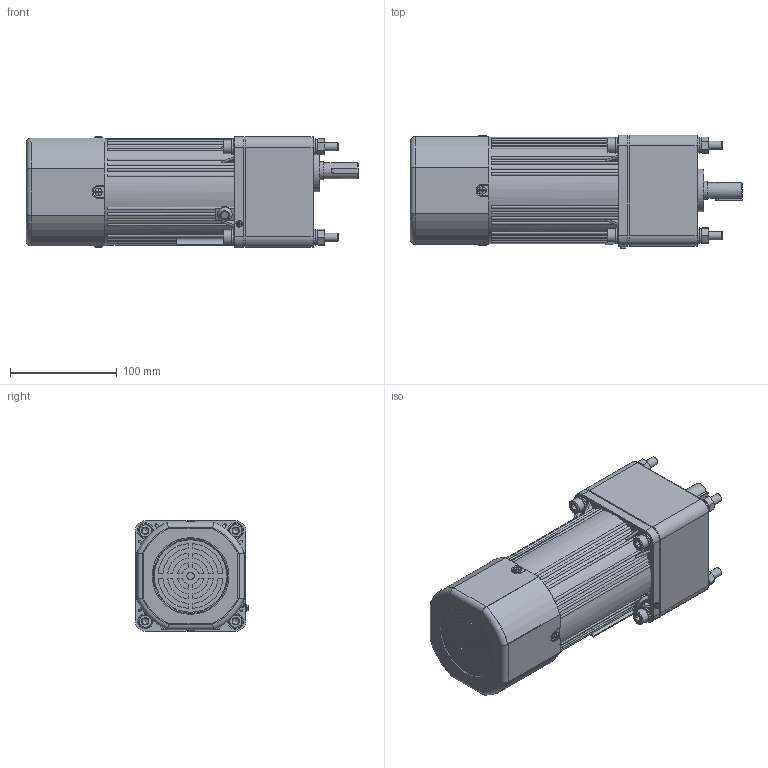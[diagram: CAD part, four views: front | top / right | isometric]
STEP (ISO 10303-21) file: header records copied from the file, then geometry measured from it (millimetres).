
FILE_DESCRIPTION(/* description */ (''),/* implementation_level */ '2;1');
FILE_NAME(/* name */ '6RK160-200CC·MRF#6GU3-750K-C·15T.stp',/* time_stamp */ '2024-05-29T16:45:11+08:00',/* author */ (''),/* organization */ (''),/* preprocessor_version */ 'ST-DEVELOPER v18.102',/* originating_system */ 'SIEMENS PLM Software NX 2027',/* authorisation */ '');
FILE_SCHEMA (('AP203_CONFIGURATION_CONTROLLED_3D_DESIGN_OF_MECHANICAL_PARTS_AND_ASSEMBLIES_MIM_LF { 1 0 10303 403 2 1 2}'));
Products named in the file (1): A0_objects
Bounding box: 311.5 x 106.83 x 104.06 mm (x, y, z)
Volume: 2695713.8 mm3; surface area: 395274.1 mm2
Topology: 31 solids, 31 shells, 1730 faces, 4490 edges, 2917 vertices
Faces by surface type: plane 718, cylinder 440, bspline 313, cone 169, torus 62, sphere 28
Full cylindrical faces by diameter (mm): 2.5 x2, 2.6 x2, 2.7 x1, 3 x1, 3.2 x2, 3.3 x4, 3.5 x4, 3.6 x4, 4 x5, 4.55 x2, 5.1 x2, 5.15 x2, 6 x2, 6.8 x8, 6.985 x4, 7 x2, 7.5 x2, 7.76 x4, 8.4 x7, 8.5 x4, 9 x13, 9.3 x1, 13 x5, 14 x9, 15 x9, 15.5 x2, 17 x1, 17.3 x1, 19 x2, 27 x1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
Entity records: 56045 total; most frequent: CARTESIAN_POINT 15105, ORIENTED_EDGE 8250, DIRECTION 7272, EDGE_CURVE 4125, AXIS2_PLACEMENT_3D 2903, VERTEX_POINT 2796, EDGE_LOOP 2180, ADVANCED_FACE 1730
